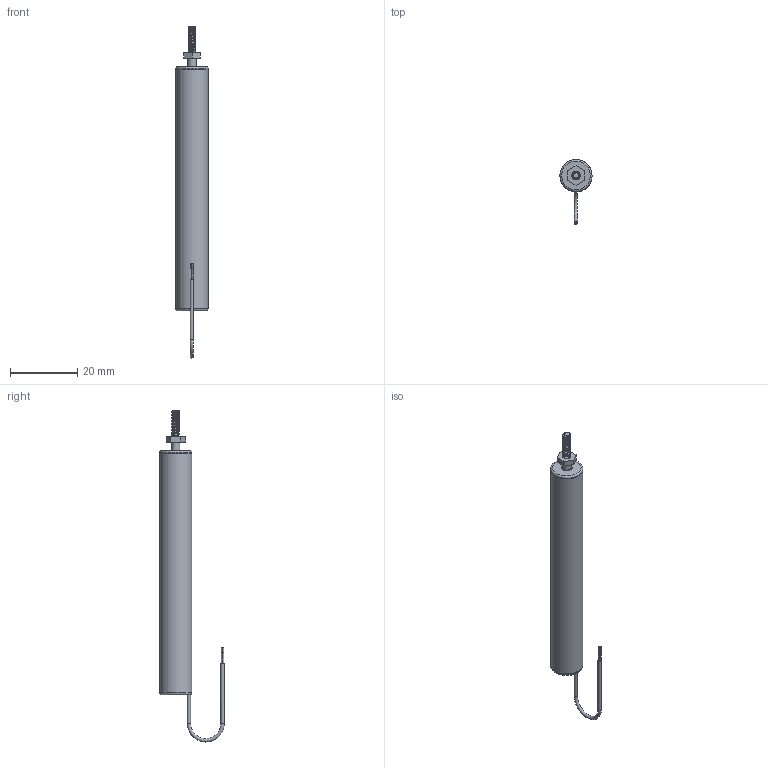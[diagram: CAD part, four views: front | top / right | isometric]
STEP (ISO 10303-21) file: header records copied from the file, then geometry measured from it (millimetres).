
FILE_DESCRIPTION(/* description */ (''),/* implementation_level */ '2;1');
FILE_NAME(/* name */ 'ILPS-9.5Z-019-A-00-YY-S Assembly (wrapped).stp',/* time_stamp */ '2024-08-21T13:31:44-04:00',/* author */ ('Justin'),/* organization */ (''),/* preprocessor_version */ 'ST-DEVELOPER v20',/* originating_system */ 'Autodesk Inventor 2025',/* authorisation */ '');
FILE_SCHEMA (('AUTOMOTIVE_DESIGN { 1 0 10303 214 3 1 1 }'));
Length unit declared in the file: inch
Products named in the file (5): 3020-0020-XX Assembly_SW; 3020-0020-XX Assembly_Simplify_1; 3020-0020-XX Shaft_SW; 3020-0020-XX Wire_SW; BS 4183 - M2.5
Assembly tree (4 placements, depth 2):
  3020-0020-XX Assembly_SW
    3020-0020-XX Assembly_Simplify_1
    3020-0020-XX Shaft_SW
    3020-0020-XX Wire_SW
    BS 4183 - M2.5
Bounding box: 9.52 x 19.15 x 98.49 mm (x, y, z)
Volume: 647.1 mm3; surface area: 6466.4 mm2
Topology: 7 solids, 7 shells, 70 faces, 145 edges, 94 vertices
Faces by surface type: plane 37, cylinder 23, cone 4, torus 3, bspline 3
Full cylindrical faces by diameter (mm): 0.203 x10, 1 x2, 2.013 x1, 2.438 x1, 2.667 x1, 3.175 x3, 9.398 x1, 9.525 x2
Entity records: 4009 total; most frequent: CARTESIAN_POINT 2140, DIRECTION 367, ORIENTED_EDGE 290, AXIS2_PLACEMENT_3D 158, EDGE_CURVE 145, VERTEX_POINT 94, EDGE_LOOP 85, CIRCLE 82
